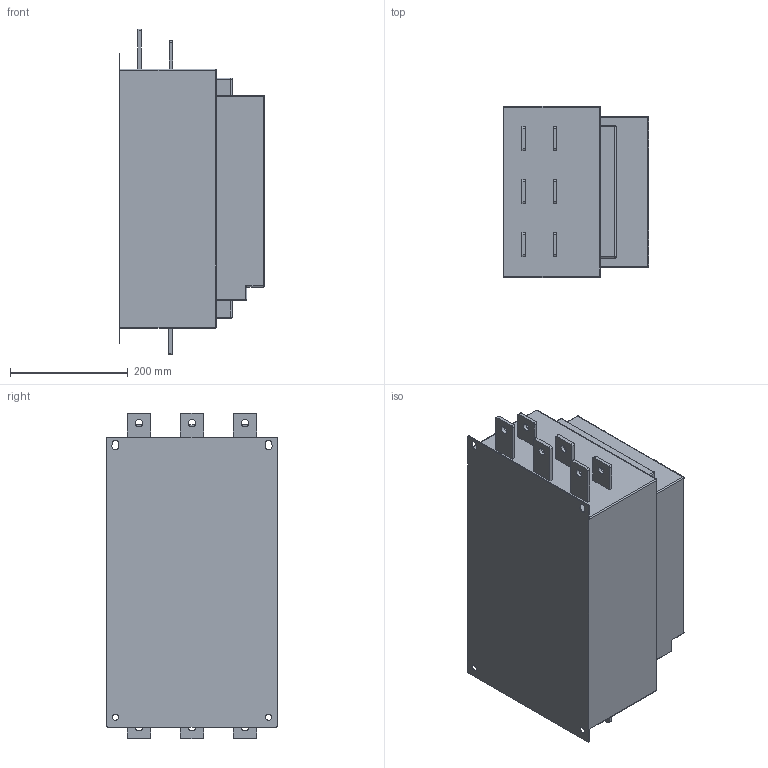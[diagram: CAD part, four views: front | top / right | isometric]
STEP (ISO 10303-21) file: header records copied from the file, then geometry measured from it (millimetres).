
FILE_DESCRIPTION(('STEP AP203'), '1');
FILE_NAME('ﾓﾏﾏ _ SSI-250_500-04', '', ('UNSPECIFIED'), ('UNSPECIFIED'), 'C3D Converter', 'C3D Toolkit', '');
FILE_SCHEMA(('CONFIG_CONTROL_DESIGN'));
Length unit declared in the file: millimetre
Products named in the file (4): SSI-320_640-04; SSI-KP
Assembly tree (3 placements, depth 2):
  SSI-320_640-04
    SSI-320_640-04
    SSI-320_640-04
    SSI-KP
Bounding box: 247.62 x 290 x 553 mm (x, y, z)
Volume: 28574054.1 mm3; surface area: 932629 mm2
Topology: 3 solids, 3 shells, 493 faces, 1299 edges, 836 vertices
Faces by surface type: plane 372, cylinder 106, sphere 14, torus 1
Full cylindrical faces by diameter (mm): 4.8 x12, 10 x2, 10.5 x2, 12 x6, 13 x9
Entity records: 15850 total; most frequent: CARTESIAN_POINT 2591, DIRECTION 2530, ORIENTED_EDGE 2504, EDGE_CURVE 1252, LINE 964, VECTOR 964, VERTEX_POINT 836, AXIS2_PLACEMENT_3D 783
